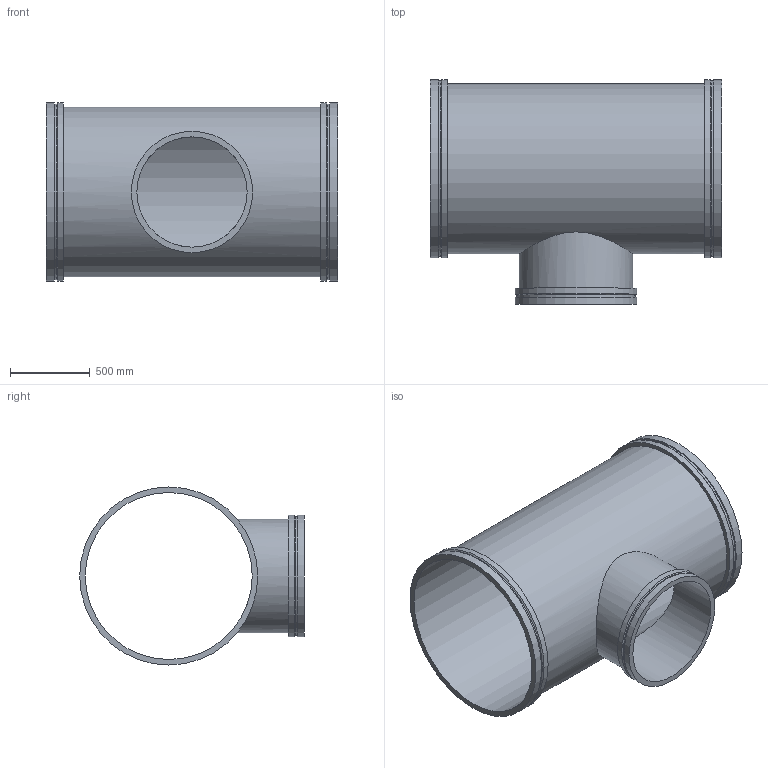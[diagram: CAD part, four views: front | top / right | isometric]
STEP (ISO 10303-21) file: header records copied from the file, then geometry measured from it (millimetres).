
FILE_DESCRIPTION(/* description */ ('VIC REDUCING TEE No W025 VR','CAx-IF Rec.Pracs.---Representation and Presentation of Product Manufacturing Information (PMI)---4.0---2014-10-13'),/* implementation_level */ '2;1');
FILE_NAME(/* name */ 'C:\Users\kkamble\AppData\Roaming\Autodesk\ApplicationPlugins\Back Up\Victaulic_Vic-Ring_Tee Reducing_No W25 VR (AGR)\Victaulic_Vic-Ring_Tee Reducing_No W25 VR (AGR)_42.0x28.0 (1050x700).stp',/* time_stamp */ '2020-09-10T11:56:08+05:00',/* author */ ('mchristi'),/* organization */ ('Victaulic'),/* preprocessor_version */ 'ST-DEVELOPER v17.2',/* originating_system */ 'Autodesk Inventor 2019',/* authorisation */ '');
FILE_SCHEMA (('AP242_MANAGED_MODEL_BASED_3D_ENGINEERING_MIM_LF { 1 0 10303 442 1 1 4 }'));
Length unit declared in the file: inch
Products named in the file (1): W25 VR-42.0x28.0
Bounding box: 1828.8 x 1409.7 x 1117.6 mm (x, y, z)
Volume: 85621525.9 mm3; surface area: 13732049.7 mm2
Topology: 1 solids, 1 shells, 25 faces, 68 edges, 52 vertices
Faces by surface type: cylinder 13, plane 9, cone 3
Full cylindrical faces by diameter (mm): 692.15 x1, 711.2 x1, 747.522 x1, 762 x2, 1047.75 x1, 1066.8 x1, 1101.725 x2, 1117.6 x4
Entity records: 1267 total; most frequent: CARTESIAN_POINT 423, DIRECTION 190, ORIENTED_EDGE 136, AXIS2_PLACEMENT_3D 87, EDGE_CURVE 68, VERTEX_POINT 52, CIRCLE 48, EDGE_LOOP 36
